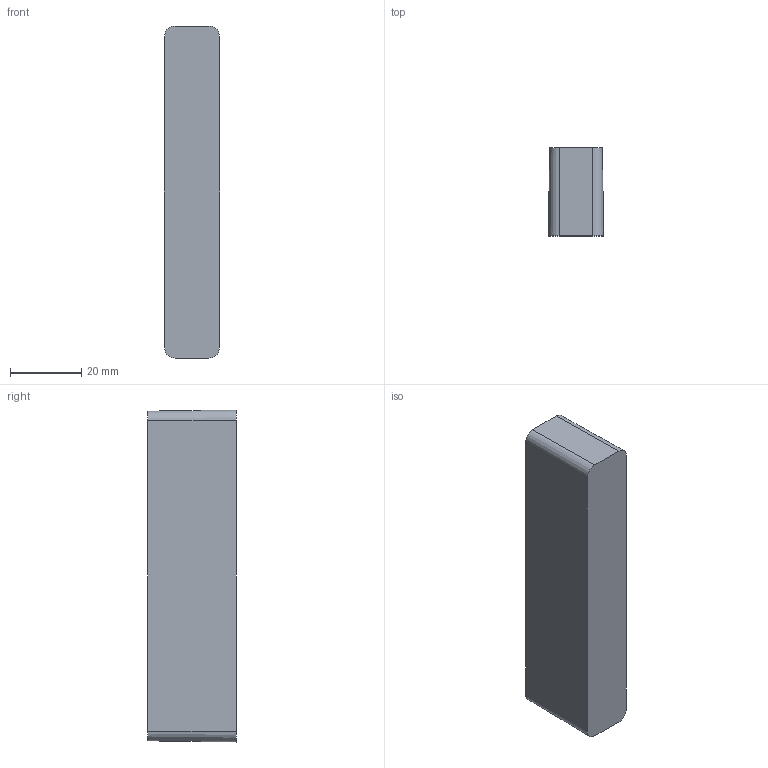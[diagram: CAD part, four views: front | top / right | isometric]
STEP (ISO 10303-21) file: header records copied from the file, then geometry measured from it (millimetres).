
FILE_DESCRIPTION (( 'STEP AP214' ), '1' );
FILE_NAME ('IMOS_Rechteckreling Abdeckkappe vo.STEP', '2010-10-07T05:31:38', ( 'Grass' ), ( '' ), 'SwSTEP 2.0', 'SolidWorks 2010', '' );
FILE_SCHEMA (( 'AUTOMOTIVE_DESIGN' ));
Length unit declared in the file: millimetre
Products named in the file (1): IMOS_Rechteckreling Abdeckkappe vo
Bounding box: 15.5 x 24.8 x 93.3 mm (x, y, z)
Volume: 27838 mm3; surface area: 9761.6 mm2
Topology: 1 solids, 1 shells, 15 faces, 36 edges, 24 vertices
Faces by surface type: plane 11, cone 4
Entity records: 472 total; most frequent: DIRECTION 76, CARTESIAN_POINT 76, ORIENTED_EDGE 72, EDGE_CURVE 36, LINE 28, VECTOR 28, VERTEX_POINT 24, AXIS2_PLACEMENT_3D 24
